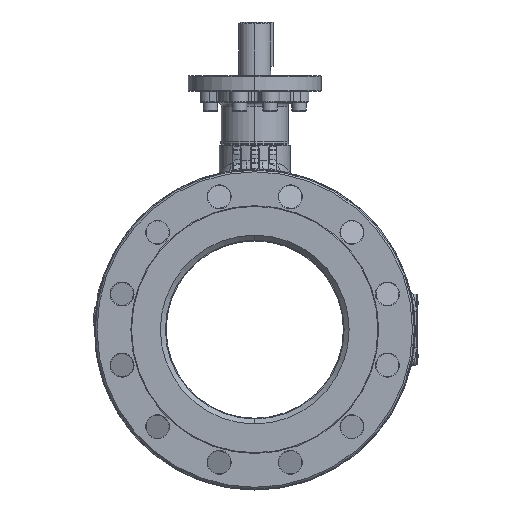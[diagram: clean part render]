
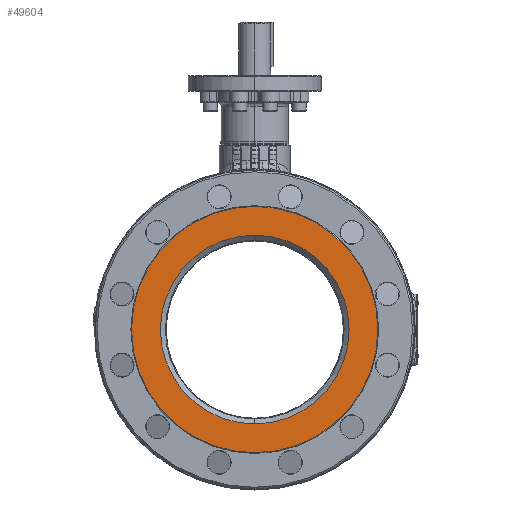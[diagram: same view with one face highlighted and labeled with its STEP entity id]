
A CAD part, left-side view. The second image highlights one B-rep face of the part: STEP entity #49604.
In plain terms, the highlighted planar face has unit normal (-1, 0, 0).
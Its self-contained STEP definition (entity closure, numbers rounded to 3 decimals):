
#16486=CARTESIAN_POINT('',(-200.,0.,0.));
#16487=DIRECTION('',(-1.,0.,0.));
#16488=DIRECTION('',(0.,0.,1.));
#16489=AXIS2_PLACEMENT_3D('',#16486,#16487,#16488);
#16491=CARTESIAN_POINT('',(-200.,0.,0.));
#16492=DIRECTION('',(1.,0.,0.));
#16493=DIRECTION('',(0.,0.,1.));
#16494=AXIS2_PLACEMENT_3D('',#16491,#16492,#16493);
#16501=CARTESIAN_POINT('',(-200.,0.,0.));
#16502=DIRECTION('',(1.,0.,0.));
#16503=DIRECTION('',(0.,0.,1.));
#16504=AXIS2_PLACEMENT_3D('',#16501,#16502,#16503);
#16533=CARTESIAN_POINT('',(-200.,0.,0.));
#16534=DIRECTION('',(-1.,0.,0.));
#16535=DIRECTION('',(0.,0.,1.));
#16536=AXIS2_PLACEMENT_3D('',#16533,#16534,#16535);
#24464=CARTESIAN_POINT('',(-200.,0.,139.));
#24465=CARTESIAN_POINT('',(-200.,0.,-139.));
#24466=VERTEX_POINT('',#24464);
#24467=VERTEX_POINT('',#24465);
#24468=CARTESIAN_POINT('',(-200.,0.,106.5));
#24469=CARTESIAN_POINT('',(-200.,0.,-106.5));
#24470=VERTEX_POINT('',#24468);
#24471=VERTEX_POINT('',#24469);
#49589=CARTESIAN_POINT('',(-200.,0.,0.));
#49590=DIRECTION('',(1.,0.,0.));
#49591=DIRECTION('',(0.,0.,-1.));
#49592=AXIS2_PLACEMENT_3D('',#49589,#49590,#49591);
#49593=PLANE('',#49592);
#49594=ORIENTED_EDGE('',*,*,#49556,.F.);
#49595=ORIENTED_EDGE('',*,*,#49571,.T.);
#49596=EDGE_LOOP('',(#49594,#49595));
#49597=FACE_OUTER_BOUND('',#49596,.F.);
#49599=ORIENTED_EDGE('',*,*,#49598,.F.);
#49601=ORIENTED_EDGE('',*,*,#49600,.T.);
#49602=EDGE_LOOP('',(#49599,#49601));
#49603=FACE_BOUND('',#49602,.F.);
#49604=ADVANCED_FACE('',(#49597,#49603),#49593,.F.);
#16490=CIRCLE('',#16489,139.);
#16495=CIRCLE('',#16494,139.);
#16505=CIRCLE('',#16504,106.5);
#16537=CIRCLE('',#16536,106.5);
#49556=EDGE_CURVE('',#24466,#24467,#16490,.T.);
#49571=EDGE_CURVE('',#24466,#24467,#16495,.T.);
#49598=EDGE_CURVE('',#24470,#24471,#16505,.T.);
#49600=EDGE_CURVE('',#24470,#24471,#16537,.T.);
